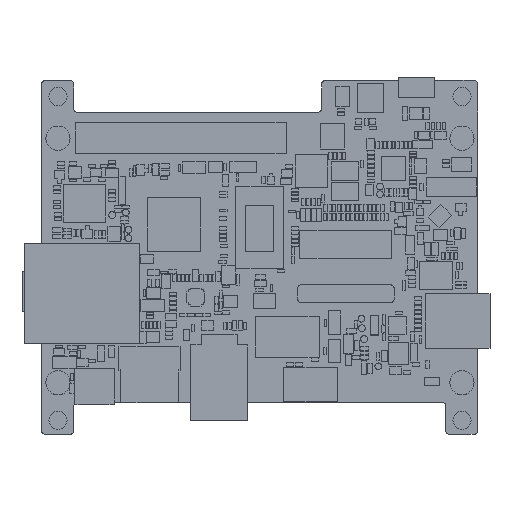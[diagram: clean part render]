
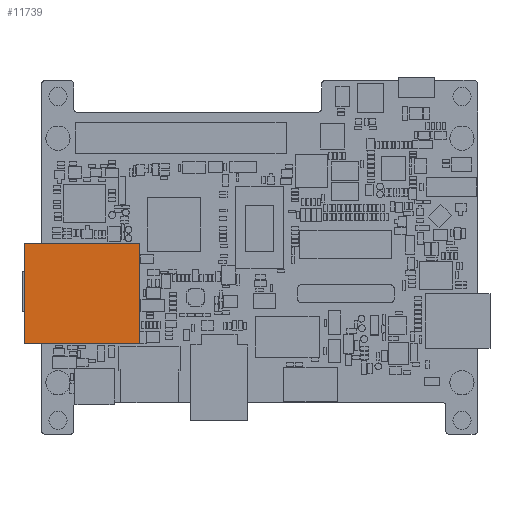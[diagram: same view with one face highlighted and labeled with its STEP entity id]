
A CAD part, top view. The second image highlights one B-rep face of the part: STEP entity #11739.
In plain terms, the highlighted planar face has unit normal (0, 0, 1).
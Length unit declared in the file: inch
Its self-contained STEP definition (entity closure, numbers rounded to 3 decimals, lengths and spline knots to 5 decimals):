
#11624=DIRECTION('',(0.,1.,0.));
#11625=VECTOR('',#11624,1.1063);
#11626=CARTESIAN_POINT('',(-0.63386,-0.55315,0.17717));
#11627=LINE('',#11626,#11625);
#11628=DIRECTION('',(1.,0.,0.));
#11629=VECTOR('',#11628,1.26772);
#11630=CARTESIAN_POINT('',(-0.63386,0.55315,0.17717));
#11631=LINE('',#11630,#11629);
#11632=DIRECTION('',(0.,-1.,0.));
#11633=VECTOR('',#11632,1.1063);
#11634=CARTESIAN_POINT('',(0.63386,0.55315,0.17717));
#11635=LINE('',#11634,#11633);
#11636=DIRECTION('',(-1.,0.,0.));
#11637=VECTOR('',#11636,1.26772);
#11638=CARTESIAN_POINT('',(0.63386,-0.55315,0.17717));
#11639=LINE('',#11638,#11637);
#11648=CARTESIAN_POINT('',(-0.63386,0.55315,0.17717));
#11649=VERTEX_POINT('',#11648);
#11650=CARTESIAN_POINT('',(-0.63386,-0.55315,0.17717));
#11651=VERTEX_POINT('',#11650);
#11652=CARTESIAN_POINT('',(0.63386,0.55315,0.17717));
#11653=VERTEX_POINT('',#11652);
#11654=CARTESIAN_POINT('',(0.63386,-0.55315,0.17717));
#11655=VERTEX_POINT('',#11654);
#11728=CARTESIAN_POINT('',(0.,0.,0.17717));
#11729=DIRECTION('',(0.,0.,1.));
#11730=DIRECTION('',(1.,0.,0.));
#11731=AXIS2_PLACEMENT_3D('',#11728,#11729,#11730);
#11732=PLANE('',#11731);
#11733=ORIENTED_EDGE('',*,*,#11680,.T.);
#11734=ORIENTED_EDGE('',*,*,#11695,.T.);
#11735=ORIENTED_EDGE('',*,*,#11709,.T.);
#11736=ORIENTED_EDGE('',*,*,#11722,.T.);
#11737=EDGE_LOOP('',(#11733,#11734,#11735,#11736));
#11738=FACE_OUTER_BOUND('',#11737,.F.);
#11739=ADVANCED_FACE('',(#11738),#11732,.T.);
#11680=EDGE_CURVE('',#11651,#11649,#11627,.T.);
#11695=EDGE_CURVE('',#11649,#11653,#11631,.T.);
#11709=EDGE_CURVE('',#11653,#11655,#11635,.T.);
#11722=EDGE_CURVE('',#11655,#11651,#11639,.T.);
